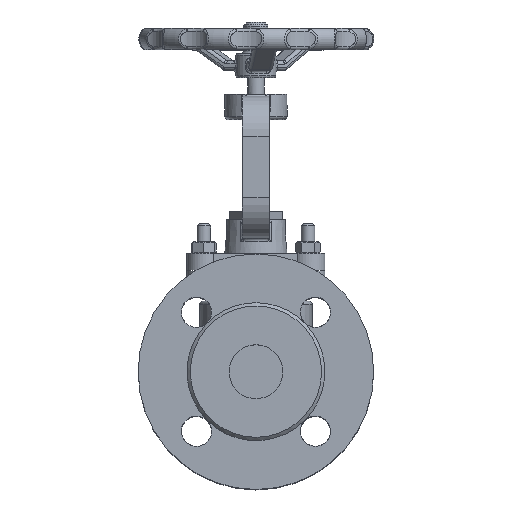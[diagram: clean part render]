
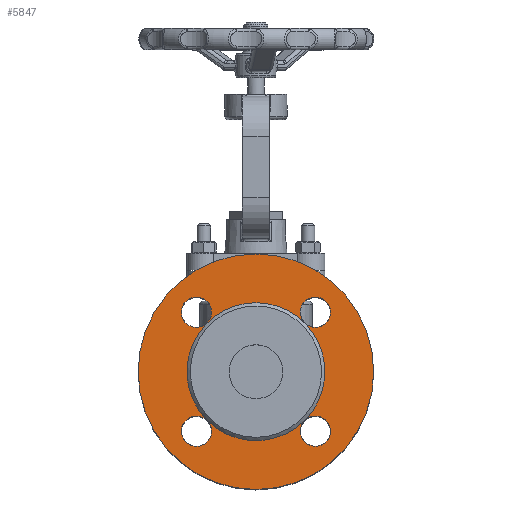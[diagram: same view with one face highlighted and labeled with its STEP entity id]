
A CAD part, top view. The second image highlights one B-rep face of the part: STEP entity #5847.
In plain terms, the highlighted planar face has unit normal (0, 0, 1).
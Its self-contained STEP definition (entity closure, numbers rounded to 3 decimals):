
#5847=ADVANCED_FACE('',(#14346,#14348,#14350,#14352,#14354,#14356),#14358,.F.);
#14346=FACE_BOUND('',#14347,.T.);
#14347=EDGE_LOOP('',(#21391));
#14348=FACE_BOUND('',#14349,.T.);
#14349=EDGE_LOOP('',(#21392));
#14350=FACE_BOUND('',#14351,.T.);
#14351=EDGE_LOOP('',(#21393));
#14352=FACE_BOUND('',#14353,.T.);
#14353=EDGE_LOOP('',(#21394));
#14354=FACE_BOUND('',#14355,.T.);
#14355=EDGE_LOOP('',(#21395));
#14356=FACE_BOUND('',#14357,.T.);
#14357=EDGE_LOOP('',(#21396));
#14358=PLANE('',#14359);
#14359=AXIS2_PLACEMENT_3D('',#14360,#14361,#14362);
#14360=CARTESIAN_POINT('',(0.,0.,88.));
#14361=DIRECTION('',(0.,0.,-1.));
#14362=DIRECTION('',(0.,1.,0.));
#21391=ORIENTED_EDGE('',*,*,#24444,.T.);
#21392=ORIENTED_EDGE('',*,*,#24564,.F.);
#21393=ORIENTED_EDGE('',*,*,#24448,.T.);
#21394=ORIENTED_EDGE('',*,*,#24447,.T.);
#21395=ORIENTED_EDGE('',*,*,#24446,.T.);
#21396=ORIENTED_EDGE('',*,*,#24445,.T.);
#24444=EDGE_CURVE('',#27908,#27908,#27909,.T.);
#24445=EDGE_CURVE('',#27910,#27910,#27911,.T.);
#24446=EDGE_CURVE('',#27912,#27912,#27913,.T.);
#24447=EDGE_CURVE('',#27914,#27914,#27915,.T.);
#24448=EDGE_CURVE('',#27916,#27916,#27917,.T.);
#24564=EDGE_CURVE('',#28077,#28077,#28078,.T.);
#27908=VERTEX_POINT('',#54869);
#27909=CIRCLE('',#54870,70.);
#27910=VERTEX_POINT('',#54874);
#27911=CIRCLE('',#54875,9.);
#27912=VERTEX_POINT('',#54879);
#27913=CIRCLE('',#54880,9.);
#27914=VERTEX_POINT('',#54884);
#27915=CIRCLE('',#54885,9.);
#27916=VERTEX_POINT('',#54889);
#27917=CIRCLE('',#54890,9.);
#28077=VERTEX_POINT('',#56769);
#28078=CIRCLE('',#56770,41.);
#54869=CARTESIAN_POINT('',(0.,70.,88.));
#54870=AXIS2_PLACEMENT_3D('',#54871,#54872,#54873);
#54871=CARTESIAN_POINT('',(0.,0.,88.));
#54872=DIRECTION('',(0.,0.,1.));
#54873=DIRECTION('',(0.,1.,0.));
#54874=CARTESIAN_POINT('',(35.355,-26.355,88.));
#54875=AXIS2_PLACEMENT_3D('',#54876,#54877,#54878);
#54876=CARTESIAN_POINT('',(35.355,-35.355,88.));
#54877=DIRECTION('',(0.,0.,-1.));
#54878=DIRECTION('',(0.,1.,0.));
#54879=CARTESIAN_POINT('',(-35.355,26.355,88.));
#54880=AXIS2_PLACEMENT_3D('',#54881,#54882,#54883);
#54881=CARTESIAN_POINT('',(-35.355,35.355,88.));
#54882=DIRECTION('',(0.,0.,-1.));
#54883=DIRECTION('',(0.,-1.,0.));
#54884=CARTESIAN_POINT('',(26.355,35.355,88.));
#54885=AXIS2_PLACEMENT_3D('',#54886,#54887,#54888);
#54886=CARTESIAN_POINT('',(35.355,35.355,88.));
#54887=DIRECTION('',(0.,0.,-1.));
#54888=DIRECTION('',(-1.,0.,0.));
#54889=CARTESIAN_POINT('',(-26.355,-35.355,88.));
#54890=AXIS2_PLACEMENT_3D('',#54891,#54892,#54893);
#54891=CARTESIAN_POINT('',(-35.355,-35.355,88.));
#54892=DIRECTION('',(0.,0.,-1.));
#54893=DIRECTION('',(1.,0.,0.));
#56769=CARTESIAN_POINT('',(0.,41.,88.));
#56770=AXIS2_PLACEMENT_3D('',#56771,#56772,#56773);
#56771=CARTESIAN_POINT('',(0.,0.,88.));
#56772=DIRECTION('',(0.,0.,1.));
#56773=DIRECTION('',(0.,1.,0.));
